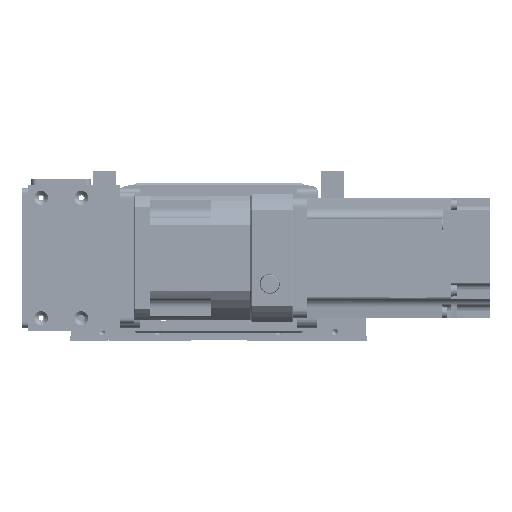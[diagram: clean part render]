
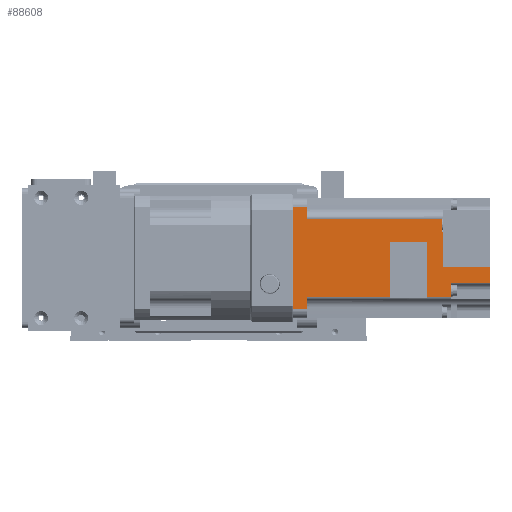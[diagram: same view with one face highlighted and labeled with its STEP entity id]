
A CAD part, front view. The second image highlights one B-rep face of the part: STEP entity #88608.
In plain terms, the highlighted planar face has unit normal (0, -1, 0).
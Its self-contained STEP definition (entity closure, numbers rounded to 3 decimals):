
#9567=FACE_OUTER_BOUND('',#14789,.T.);
#14789=EDGE_LOOP('',(#72669,#72670,#72671,#72672,#72673,#72674,#72675,#72676,
#72677,#72678,#72679,#72680,#72681,#72682,#72683,#72684,#72685,#72686,#72687,
#72688));
#21598=LINE('',#143364,#31099);
#21629=LINE('',#143484,#31130);
#21632=LINE('',#143495,#31133);
#21672=LINE('',#143610,#31173);
#21733=LINE('',#143820,#31234);
#21734=LINE('',#143825,#31235);
#21735=LINE('',#143827,#31236);
#21736=LINE('',#143828,#31237);
#21737=LINE('',#143830,#31238);
#21738=LINE('',#143832,#31239);
#21739=LINE('',#143834,#31240);
#21740=LINE('',#143836,#31241);
#21741=LINE('',#143838,#31242);
#21742=LINE('',#143840,#31243);
#21743=LINE('',#143842,#31244);
#21744=LINE('',#143844,#31245);
#21745=LINE('',#143845,#31246);
#21746=LINE('',#143847,#31247);
#21747=LINE('',#143849,#31248);
#21748=LINE('',#143850,#31249);
#31099=VECTOR('',#113965,51.);
#31130=VECTOR('',#114068,3.41);
#31133=VECTOR('',#114077,2.444);
#31173=VECTOR('',#114179,7.8);
#31234=VECTOR('',#114414,5.941);
#31235=VECTOR('',#114421,67.3);
#31236=VECTOR('',#114424,0.905);
#31237=VECTOR('',#114425,7.);
#31238=VECTOR('',#114426,7.);
#31239=VECTOR('',#114427,5.941);
#31240=VECTOR('',#114428,41.6);
#31241=VECTOR('',#114429,27.559);
#31242=VECTOR('',#114430,18.35);
#31243=VECTOR('',#114431,27.559);
#31244=VECTOR('',#114432,11.85);
#31245=VECTOR('',#114433,7.059);
#31246=VECTOR('',#114434,19.5);
#31247=VECTOR('',#114435,23.5);
#31248=VECTOR('',#114436,17.5);
#31249=VECTOR('',#114437,0.5);
#40843=VERTEX_POINT('',#143361);
#40844=VERTEX_POINT('',#143363);
#40894=VERTEX_POINT('',#143478);
#40896=VERTEX_POINT('',#143481);
#40897=VERTEX_POINT('',#143483);
#40902=VERTEX_POINT('',#143493);
#40945=VERTEX_POINT('',#143607);
#40946=VERTEX_POINT('',#143609);
#41007=VERTEX_POINT('',#143817);
#41008=VERTEX_POINT('',#143819);
#41010=VERTEX_POINT('',#143829);
#41011=VERTEX_POINT('',#143831);
#41012=VERTEX_POINT('',#143833);
#41013=VERTEX_POINT('',#143835);
#41014=VERTEX_POINT('',#143837);
#41015=VERTEX_POINT('',#143839);
#41016=VERTEX_POINT('',#143841);
#41017=VERTEX_POINT('',#143843);
#41018=VERTEX_POINT('',#143846);
#41019=VERTEX_POINT('',#143848);
#51888=EDGE_CURVE('',#40843,#40844,#21598,.T.);
#51947=EDGE_CURVE('',#40896,#40897,#21629,.T.);
#51953=EDGE_CURVE('',#40902,#40894,#21632,.T.);
#52011=EDGE_CURVE('',#40945,#40946,#21672,.T.);
#52115=EDGE_CURVE('',#41008,#41007,#21733,.T.);
#52118=EDGE_CURVE('',#41008,#40902,#21734,.T.);
#52119=EDGE_CURVE('',#40894,#40896,#21735,.T.);
#52120=EDGE_CURVE('',#41007,#40844,#21736,.T.);
#52121=EDGE_CURVE('',#40843,#41010,#21737,.T.);
#52122=EDGE_CURVE('',#41011,#41010,#21738,.T.);
#52123=EDGE_CURVE('',#41011,#41012,#21739,.T.);
#52124=EDGE_CURVE('',#41012,#41013,#21740,.T.);
#52125=EDGE_CURVE('',#41013,#41014,#21741,.T.);
#52126=EDGE_CURVE('',#41014,#41015,#21742,.T.);
#52127=EDGE_CURVE('',#41016,#41015,#21743,.T.);
#52128=EDGE_CURVE('',#41017,#41016,#21744,.T.);
#52129=EDGE_CURVE('',#40946,#41017,#21745,.T.);
#52130=EDGE_CURVE('',#40945,#41018,#21746,.T.);
#52131=EDGE_CURVE('',#41019,#41018,#21747,.T.);
#52132=EDGE_CURVE('',#40897,#41019,#21748,.T.);
#72669=ORIENTED_EDGE('',*,*,#52119,.F.);
#72670=ORIENTED_EDGE('',*,*,#51953,.F.);
#72671=ORIENTED_EDGE('',*,*,#52118,.F.);
#72672=ORIENTED_EDGE('',*,*,#52115,.T.);
#72673=ORIENTED_EDGE('',*,*,#52120,.T.);
#72674=ORIENTED_EDGE('',*,*,#51888,.F.);
#72675=ORIENTED_EDGE('',*,*,#52121,.T.);
#72676=ORIENTED_EDGE('',*,*,#52122,.F.);
#72677=ORIENTED_EDGE('',*,*,#52123,.T.);
#72678=ORIENTED_EDGE('',*,*,#52124,.T.);
#72679=ORIENTED_EDGE('',*,*,#52125,.T.);
#72680=ORIENTED_EDGE('',*,*,#52126,.T.);
#72681=ORIENTED_EDGE('',*,*,#52127,.F.);
#72682=ORIENTED_EDGE('',*,*,#52128,.F.);
#72683=ORIENTED_EDGE('',*,*,#52129,.F.);
#72684=ORIENTED_EDGE('',*,*,#52011,.F.);
#72685=ORIENTED_EDGE('',*,*,#52130,.T.);
#72686=ORIENTED_EDGE('',*,*,#52131,.F.);
#72687=ORIENTED_EDGE('',*,*,#52132,.F.);
#72688=ORIENTED_EDGE('',*,*,#51947,.F.);
#84151=PLANE('',#96489);
#88608=ADVANCED_FACE('',(#9567),#84151,.F.);
#96489=AXIS2_PLACEMENT_3D('',#143826,#114422,#114423);
#113965=DIRECTION('',(1.,0.,0.));
#114068=DIRECTION('',(-1.,0.,0.));
#114077=DIRECTION('',(-1.,0.,0.));
#114179=DIRECTION('',(-1.,0.,0.));
#114414=DIRECTION('',(1.,0.,0.));
#114421=DIRECTION('',(0.,0.,-1.));
#114422=DIRECTION('center_axis',(0.,1.,0.));
#114423=DIRECTION('ref_axis',(-1.,0.,0.));
#114424=DIRECTION('',(-1.,0.,0.));
#114425=DIRECTION('',(0.,0.,1.));
#114426=DIRECTION('',(0.,0.,-1.));
#114427=DIRECTION('',(-1.,0.,0.));
#114428=DIRECTION('',(0.,0.,-1.));
#114429=DIRECTION('',(1.,0.,0.));
#114430=DIRECTION('',(0.,0.,-1.));
#114431=DIRECTION('',(-1.,0.,0.));
#114432=DIRECTION('',(0.,0.,1.));
#114433=DIRECTION('',(-1.,0.,0.));
#114434=DIRECTION('',(0.,0.,1.));
#114435=DIRECTION('',(0.,0.,1.));
#114436=DIRECTION('',(-1.,0.,0.));
#114437=DIRECTION('',(0.,0.,-1.));
#143361=CARTESIAN_POINT('',(-25.5,-30.,0.));
#143363=CARTESIAN_POINT('',(25.5,-30.,0.));
#143364=CARTESIAN_POINT('',(-25.5,-30.,0.));
#143478=CARTESIAN_POINT('',(17.115,-30.,-74.3));
#143481=CARTESIAN_POINT('',(16.21,-30.,-74.3));
#143483=CARTESIAN_POINT('',(12.8,-30.,-74.3));
#143484=CARTESIAN_POINT('',(16.21,-30.,-74.3));
#143493=CARTESIAN_POINT('',(19.559,-30.,-74.3));
#143495=CARTESIAN_POINT('',(19.559,-30.,-74.3));
#143607=CARTESIAN_POINT('',(-4.7,-30.,-98.3));
#143609=CARTESIAN_POINT('',(-12.5,-30.,-98.3));
#143610=CARTESIAN_POINT('',(-4.7,-30.,-98.3));
#143817=CARTESIAN_POINT('',(25.5,-30.,-7.));
#143819=CARTESIAN_POINT('',(19.559,-30.,-7.));
#143820=CARTESIAN_POINT('',(19.559,-30.,-7.));
#143825=CARTESIAN_POINT('',(19.559,-30.,-7.));
#143826=CARTESIAN_POINT('Origin',(0.,-30.,-3.9));
#143827=CARTESIAN_POINT('',(17.115,-30.,-74.3));
#143828=CARTESIAN_POINT('',(25.5,-30.,-7.));
#143829=CARTESIAN_POINT('',(-25.5,-30.,-7.));
#143830=CARTESIAN_POINT('',(-25.5,-30.,0.));
#143831=CARTESIAN_POINT('',(-19.559,-30.,-7.));
#143832=CARTESIAN_POINT('',(-19.559,-30.,-7.));
#143833=CARTESIAN_POINT('',(-19.559,-30.,-48.6));
#143834=CARTESIAN_POINT('',(-19.559,-30.,-7.));
#143835=CARTESIAN_POINT('',(8.,-30.,-48.6));
#143836=CARTESIAN_POINT('',(-19.559,-30.,-48.6));
#143837=CARTESIAN_POINT('',(8.,-30.,-66.95));
#143838=CARTESIAN_POINT('',(8.,-30.,-48.6));
#143839=CARTESIAN_POINT('',(-19.559,-30.,-66.95));
#143840=CARTESIAN_POINT('',(8.,-30.,-66.95));
#143841=CARTESIAN_POINT('',(-19.559,-30.,-78.8));
#143842=CARTESIAN_POINT('',(-19.559,-30.,-78.8));
#143843=CARTESIAN_POINT('',(-12.5,-30.,-78.8));
#143844=CARTESIAN_POINT('',(-12.5,-30.,-78.8));
#143845=CARTESIAN_POINT('',(-12.5,-30.,-98.3));
#143846=CARTESIAN_POINT('',(-4.7,-30.,-74.8));
#143847=CARTESIAN_POINT('',(-4.7,-30.,-98.3));
#143848=CARTESIAN_POINT('',(12.8,-30.,-74.8));
#143849=CARTESIAN_POINT('',(12.8,-30.,-74.8));
#143850=CARTESIAN_POINT('',(12.8,-30.,-74.3));
